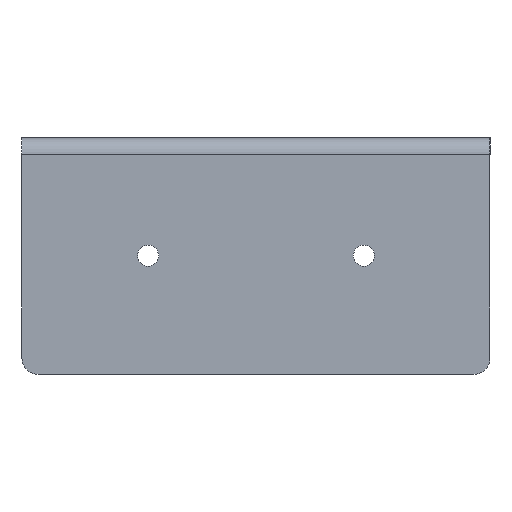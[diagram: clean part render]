
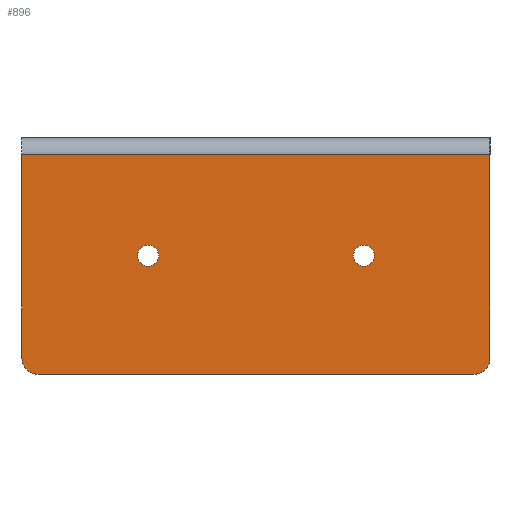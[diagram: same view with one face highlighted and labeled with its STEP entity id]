
A CAD part, left-side view. The second image highlights one B-rep face of the part: STEP entity #896.
In plain terms, the highlighted planar face has unit normal (-1, 0, 0).
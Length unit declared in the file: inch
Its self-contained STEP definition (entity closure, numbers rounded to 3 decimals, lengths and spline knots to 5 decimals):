
#207=DIRECTION('',(0.,0.,1.));
#208=VECTOR('',#207,1.51);
#209=CARTESIAN_POINT('',(0.,0.,-1.635));
#210=LINE('',#209,#208);
#381=DIRECTION('',(0.,0.,1.));
#382=VECTOR('',#381,1.51);
#383=CARTESIAN_POINT('',(0.,3.47,-1.635));
#384=LINE('',#383,#382);
#393=DIRECTION('',(0.,1.,0.));
#394=VECTOR('',#393,3.47);
#395=CARTESIAN_POINT('',(0.,0.,-0.125));
#396=LINE('',#395,#394);
#397=CARTESIAN_POINT('',(0.,2.535,-0.875));
#398=DIRECTION('',(1.,0.,0.));
#399=DIRECTION('',(0.,0.,-1.));
#400=AXIS2_PLACEMENT_3D('',#397,#398,#399);
#402=CARTESIAN_POINT('',(0.,2.535,-0.875));
#403=DIRECTION('',(1.,0.,0.));
#404=DIRECTION('',(0.,0.,1.));
#405=AXIS2_PLACEMENT_3D('',#402,#403,#404);
#407=CARTESIAN_POINT('',(0.,0.935,-0.875));
#408=DIRECTION('',(1.,0.,0.));
#409=DIRECTION('',(0.,0.,-1.));
#410=AXIS2_PLACEMENT_3D('',#407,#408,#409);
#412=CARTESIAN_POINT('',(0.,0.935,-0.875));
#413=DIRECTION('',(1.,0.,0.));
#414=DIRECTION('',(0.,0.,1.));
#415=AXIS2_PLACEMENT_3D('',#412,#413,#414);
#417=DIRECTION('',(0.,1.,0.));
#418=VECTOR('',#417,3.23);
#419=CARTESIAN_POINT('',(0.,0.12,-1.755));
#420=LINE('',#419,#418);
#474=CARTESIAN_POINT('',(0.,3.35,-1.635));
#475=DIRECTION('',(-1.,0.,0.));
#476=DIRECTION('',(0.,1.,0.));
#477=AXIS2_PLACEMENT_3D('',#474,#475,#476);
#487=CARTESIAN_POINT('',(0.,0.12,-1.635));
#488=DIRECTION('',(-1.,0.,0.));
#489=DIRECTION('',(0.,0.,-1.));
#490=AXIS2_PLACEMENT_3D('',#487,#488,#489);
#505=CARTESIAN_POINT('',(0.,0.,-0.125));
#507=VERTEX_POINT('',#505);
#509=CARTESIAN_POINT('',(0.,3.47,-0.125));
#511=VERTEX_POINT('',#509);
#553=CARTESIAN_POINT('',(0.,2.535,-0.953));
#554=CARTESIAN_POINT('',(0.,2.535,-0.797));
#555=VERTEX_POINT('',#553);
#556=VERTEX_POINT('',#554);
#557=CARTESIAN_POINT('',(0.,0.935,-0.953));
#558=CARTESIAN_POINT('',(0.,0.935,-0.797));
#559=VERTEX_POINT('',#557);
#560=VERTEX_POINT('',#558);
#570=CARTESIAN_POINT('',(0.,3.35,-1.755));
#572=VERTEX_POINT('',#570);
#575=CARTESIAN_POINT('',(0.,3.47,-1.635));
#576=VERTEX_POINT('',#575);
#585=CARTESIAN_POINT('',(0.,0.12,-1.755));
#587=VERTEX_POINT('',#585);
#589=CARTESIAN_POINT('',(0.,0.,-1.635));
#590=VERTEX_POINT('',#589);
#868=CARTESIAN_POINT('',(0.,0.,-1.755));
#869=DIRECTION('',(-1.,0.,0.));
#870=DIRECTION('',(0.,0.,1.));
#871=AXIS2_PLACEMENT_3D('',#868,#869,#870);
#872=PLANE('',#871);
#874=ORIENTED_EDGE('',*,*,#873,.F.);
#875=ORIENTED_EDGE('',*,*,#845,.T.);
#876=ORIENTED_EDGE('',*,*,#861,.F.);
#877=ORIENTED_EDGE('',*,*,#606,.F.);
#879=ORIENTED_EDGE('',*,*,#878,.F.);
#881=ORIENTED_EDGE('',*,*,#880,.T.);
#882=EDGE_LOOP('',(#874,#875,#876,#877,#879,#881));
#883=FACE_OUTER_BOUND('',#882,.F.);
#885=ORIENTED_EDGE('',*,*,#884,.F.);
#887=ORIENTED_EDGE('',*,*,#886,.F.);
#888=EDGE_LOOP('',(#885,#887));
#889=FACE_BOUND('',#888,.F.);
#891=ORIENTED_EDGE('',*,*,#890,.F.);
#893=ORIENTED_EDGE('',*,*,#892,.F.);
#894=EDGE_LOOP('',(#891,#893));
#895=FACE_BOUND('',#894,.F.);
#401=CIRCLE('',#400,0.078);
#406=CIRCLE('',#405,0.078);
#411=CIRCLE('',#410,0.078);
#416=CIRCLE('',#415,0.078);
#478=CIRCLE('',#477,0.12);
#491=CIRCLE('',#490,0.12);
#606=EDGE_CURVE('',#590,#507,#210,.T.);
#845=EDGE_CURVE('',#576,#511,#384,.T.);
#861=EDGE_CURVE('',#507,#511,#396,.T.);
#873=EDGE_CURVE('',#576,#572,#478,.T.);
#878=EDGE_CURVE('',#587,#590,#491,.T.);
#880=EDGE_CURVE('',#587,#572,#420,.T.);
#884=EDGE_CURVE('',#559,#560,#411,.T.);
#886=EDGE_CURVE('',#560,#559,#416,.T.);
#890=EDGE_CURVE('',#555,#556,#401,.T.);
#892=EDGE_CURVE('',#556,#555,#406,.T.);
#896=ADVANCED_FACE('',(#883,#889,#895),#872,.T.);
